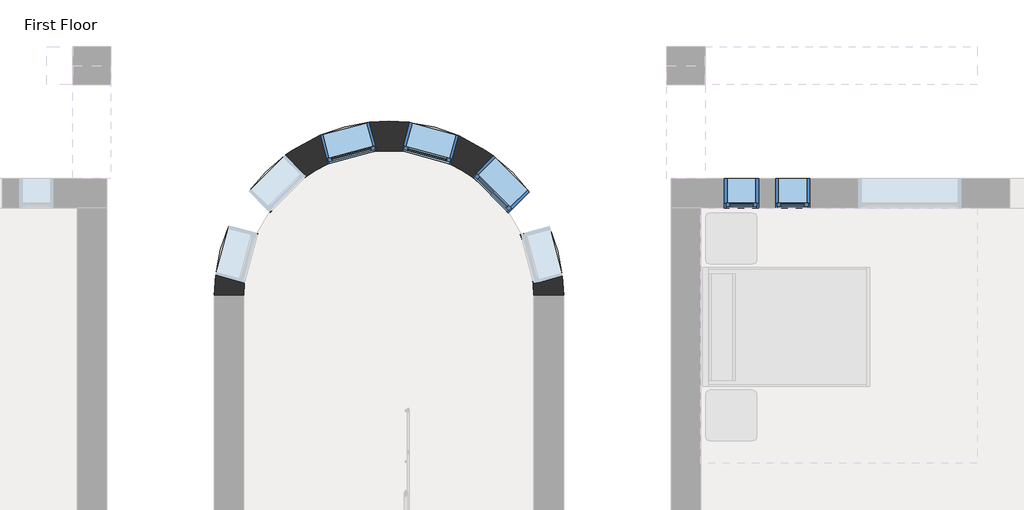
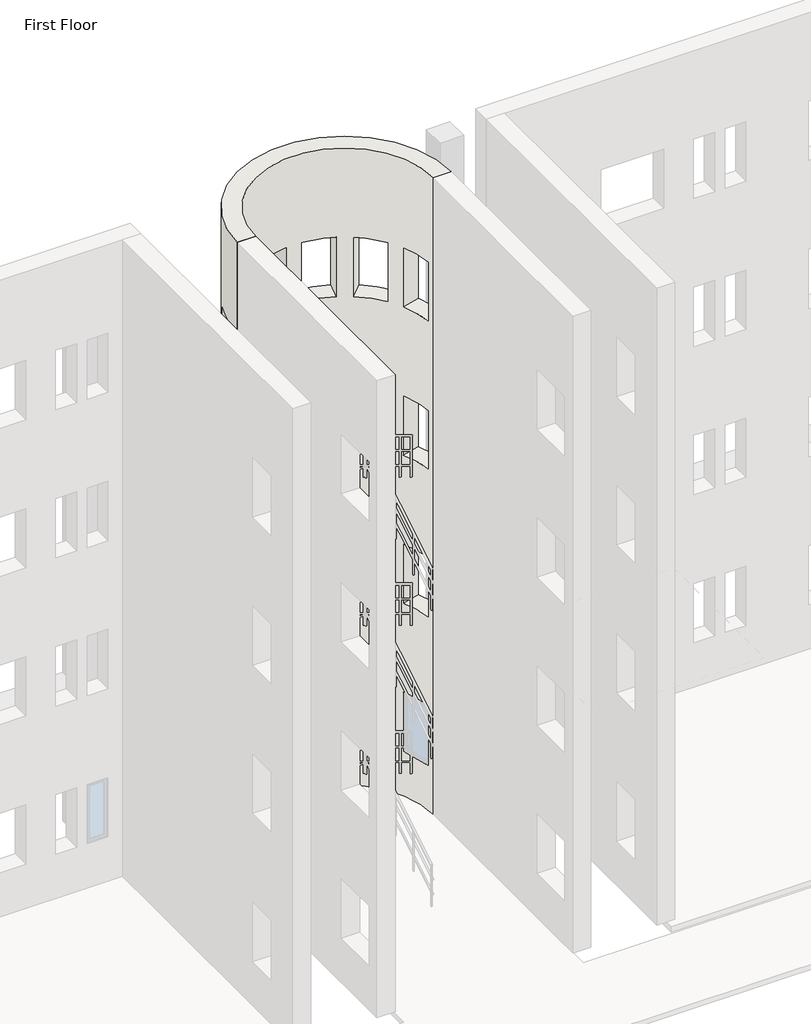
# One storey, part 17 of 24: 5 windows, 1 wall.
"""IFC4 building model written with IfcOpenShell, lengths in millimetres."""

from ifc_helpers import new_model, si_unit, frame, origin, place, context, project, spatial, polyline, circle_curve, transform, mapped, element, save
from ifc_brep_helpers import plane_surface, cylinder_surface, revolved_surface, advanced_brep
from components import window_da97879f, window_60baf983

model = new_model("IFC4")

# Units and contexts
model_context = context("Model", 3, world=origin())
ifc_project = project(units=[si_unit("LENGTHUNIT", "METRE", prefix="MILLI")], contexts=[model_context])

# Site, building, storey
site = spatial("IfcSite", under=ifc_project)
building = spatial("IfcBuilding", under=site)
storey = spatial("IfcBuildingStorey", under=building, Name="First Floor", Elevation=0.0)

# Wall
placement = place(None, origin())
element("IfcWall", 1, ObjectType="Exterior - Brick on Mtl. Stud", at=placement, inside=storey, context=model_context, shape_type="AdvancedBrep", body=[
    advanced_brep(
    [(-12853.9589563, 9227.0316867, 13106.4), (-17016.3839563, 9227.0316867, 13106.4), (-16663.9589563, 9227.0316867, 13106.4), (-13206.3839563, 9227.0316867, 13106.4), (-17016.3839563, 9227.0316867, 0.0), (-12853.9589563, 9227.0316867, 0.0), (-13206.3839563, 9227.0316867, 0.0), (-16663.9589563, 9227.0316867, 0.0), (-13022.9261748, 10048.4715527, 8229.6), (-13022.9261748, 10048.4715527, 7010.4), (-12866.9452701, 9459.1650812, 7010.4), (-12866.9452701, 9459.1650812, 8229.6), (-13689.8383973, 10894.5421191, 8229.6), (-13689.8383973, 10894.5421191, 7010.4), (-13260.1017356, 10462.1781965, 7010.4), (-13260.1017356, 10462.1781965, 8229.6), (-14690.4366072, 11293.8046118, 8229.6), (-14690.4366072, 11293.8046118, 7010.4), (-14102.0917799, 11134.234802, 7010.4), (-14102.0917799, 11134.234802, 8229.6), (-15756.6113224, 11139.2769682, 8229.6), (-15756.6113224, 11139.2769682, 7010.4), (-15167.3048508, 11295.2578729, 7010.4), (-15167.3048508, 11295.2578729, 8229.6), (-16602.6818887, 10472.3647457, 8229.6), (-16602.6818887, 10472.3647457, 7010.4), (-16170.3179661, 10902.1014074, 7010.4), (-16170.3179661, 10902.1014074, 8229.6), (-17001.9443814, 9471.7665358, 8229.6), (-17001.9443814, 9471.7665358, 7010.4), (-16842.3745716, 10060.1113631, 7010.4), (-16842.3745716, 10060.1113631, 8229.6), (-13022.9261748, 10048.4715527, 5181.6), (-13022.9261748, 10048.4715527, 3962.4), (-12866.9452701, 9459.1650812, 3962.4), (-12866.9452701, 9459.1650812, 5181.6), (-13689.8383973, 10894.5421191, 5181.6), (-13689.8383973, 10894.5421191, 3962.4), (-13260.1017356, 10462.1781965, 3962.4), (-13260.1017356, 10462.1781965, 5181.6), (-14690.4366072, 11293.8046118, 5181.6), (-14690.4366072, 11293.8046118, 3962.4), (-14102.0917799, 11134.234802, 3962.4), (-14102.0917799, 11134.234802, 5181.6), (-15756.6113224, 11139.2769682, 5181.6), (-15756.6113224, 11139.2769682, 3962.4), (-15167.3048508, 11295.2578729, 3962.4), (-15167.3048508, 11295.2578729, 5181.6), (-16602.6818887, 10472.3647457, 5181.6), (-16602.6818887, 10472.3647457, 3962.4), (-16170.3179661, 10902.1014074, 3962.4), (-16170.3179661, 10902.1014074, 5181.6), (-17001.9443814, 9471.7665358, 5181.6), (-17001.9443814, 9471.7665358, 3962.4), (-16842.3745716, 10060.1113631, 3962.4), (-16842.3745716, 10060.1113631, 5181.6), (-13022.9261748, 10048.4715527, 11277.6), (-13022.9261748, 10048.4715527, 10058.4), (-12866.9452701, 9459.1650812, 10058.4), (-12866.9452701, 9459.1650812, 11277.6), (-13689.8383973, 10894.5421191, 11277.6), (-13689.8383973, 10894.5421191, 10058.4), (-13260.1017356, 10462.1781965, 10058.4), (-13260.1017356, 10462.1781965, 11277.6), (-14690.4366072, 11293.8046118, 11277.6), (-14690.4366072, 11293.8046118, 10058.4), (-14102.0917799, 11134.234802, 10058.4), (-14102.0917799, 11134.234802, 11277.6), (-15756.6113224, 11139.2769682, 11277.6), (-15756.6113224, 11139.2769682, 10058.4), (-15167.3048508, 11295.2578729, 10058.4), (-15167.3048508, 11295.2578729, 11277.6), (-16602.6818887, 10472.3647457, 11277.6), (-16602.6818887, 10472.3647457, 10058.4), (-16170.3179661, 10902.1014074, 10058.4), (-16170.3179661, 10902.1014074, 11277.6), (-17001.9443814, 9471.7665358, 11277.6), (-17001.9443814, 9471.7665358, 10058.4), (-16842.3745716, 10060.1113631, 10058.4), (-16842.3745716, 10060.1113631, 11277.6), (-13022.9261748, 10048.4715527, 2133.6), (-13022.9261748, 10048.4715527, 914.4), (-12866.9452701, 9459.1650812, 914.4), (-12866.9452701, 9459.1650812, 2133.6), (-13689.8383973, 10894.5421191, 2133.6), (-13689.8383973, 10894.5421191, 914.4), (-13260.1017356, 10462.1781965, 914.4), (-13260.1017356, 10462.1781965, 2133.6), (-14690.4366072, 11293.8046118, 2133.6), (-14690.4366072, 11293.8046118, 914.4), (-14102.0917799, 11134.234802, 914.4), (-14102.0917799, 11134.234802, 2133.6), (-15756.6113224, 11139.2769682, 2133.6), (-15756.6113224, 11139.2769682, 914.4), (-15167.3048508, 11295.2578729, 914.4), (-15167.3048508, 11295.2578729, 2133.6), (-16602.6818887, 10472.3647457, 2133.6), (-16602.6818887, 10472.3647457, 914.4), (-16170.3179661, 10902.1014074, 914.4), (-16170.3179661, 10902.1014074, 2133.6), (-17001.9443814, 9471.7665358, 914.4), (-16842.3745716, 10060.1113631, 914.4), (-16842.3745716, 10060.1113631, 2133.6), (-17001.9443814, 9471.7665358, 2133.6), (-13368.1055834, 9957.1075528, 7010.4), (-13368.1055834, 9957.1075528, 8229.6), (-13212.1246787, 9367.8010813, 8229.6), (-13212.1246787, 9367.8010813, 7010.4), (-13943.090534, 10642.8288698, 7010.4), (-13943.090534, 10642.8288698, 8229.6), (-13513.3538723, 10210.4649472, 8229.6), (-13513.3538723, 10210.4649472, 7010.4), (-14783.9027666, 10949.188475, 7010.4), (-14783.9027666, 10949.188475, 8229.6), (-14195.5579393, 10789.6186653, 8229.6), (-14195.5579393, 10789.6186653, 7010.4), (-15665.2473224, 10794.0975596, 7010.4), (-15665.2473224, 10794.0975596, 8229.6), (-15075.9408509, 10950.0784643, 8229.6), (-15075.9408509, 10950.0784643, 7010.4), (-16350.9686395, 10219.112609, 7010.4), (-16350.9686395, 10219.112609, 8229.6), (-15918.6047169, 10648.8492707, 8229.6), (-15918.6047169, 10648.8492707, 7010.4), (-16657.3282447, 9378.3003764, 7010.4), (-16657.3282447, 9378.3003764, 8229.6), (-16497.7584349, 9966.6452037, 8229.6), (-16497.7584349, 9966.6452037, 7010.4), (-13368.1055834, 9957.1075528, 3962.4), (-13368.1055834, 9957.1075528, 5181.6), (-13212.1246787, 9367.8010813, 5181.6), (-13212.1246787, 9367.8010813, 3962.4), (-13943.090534, 10642.8288698, 3962.4), (-13943.090534, 10642.8288698, 5181.6), (-13513.3538723, 10210.4649472, 5181.6), (-13513.3538723, 10210.4649472, 3962.4), (-14783.9027666, 10949.188475, 3962.4), (-14783.9027666, 10949.188475, 5181.6), (-14195.5579393, 10789.6186653, 5181.6), (-14195.5579393, 10789.6186653, 3962.4), (-15665.2473224, 10794.0975596, 3962.4), (-15665.2473224, 10794.0975596, 5181.6), (-15075.9408509, 10950.0784643, 5181.6), (-15075.9408509, 10950.0784643, 3962.4), (-16350.9686395, 10219.112609, 3962.4), (-16350.9686395, 10219.112609, 5181.6), (-15918.6047169, 10648.8492707, 5181.6), (-15918.6047169, 10648.8492707, 3962.4), (-16657.3282447, 9378.3003764, 3962.4), (-16657.3282447, 9378.3003764, 5181.6), (-16497.7584349, 9966.6452037, 5181.6), (-16497.7584349, 9966.6452037, 3962.4), (-13368.1055834, 9957.1075528, 10058.4), (-13368.1055834, 9957.1075528, 11277.6), (-13212.1246787, 9367.8010813, 11277.6), (-13212.1246787, 9367.8010813, 10058.4), (-13943.090534, 10642.8288698, 10058.4), (-13943.090534, 10642.8288698, 11277.6), (-13513.3538723, 10210.4649472, 11277.6), (-13513.3538723, 10210.4649472, 10058.4), (-14783.9027666, 10949.188475, 10058.4), (-14783.9027666, 10949.188475, 11277.6), (-14195.5579393, 10789.6186653, 11277.6), (-14195.5579393, 10789.6186653, 10058.4), (-15665.2473224, 10794.0975596, 10058.4), (-15665.2473224, 10794.0975596, 11277.6), (-15075.9408509, 10950.0784643, 11277.6), (-15075.9408509, 10950.0784643, 10058.4), (-16350.9686395, 10219.112609, 10058.4), (-16350.9686395, 10219.112609, 11277.6), (-15918.6047169, 10648.8492707, 11277.6), (-15918.6047169, 10648.8492707, 10058.4), (-16657.3282447, 9378.3003764, 10058.4), (-16657.3282447, 9378.3003764, 11277.6), (-16497.7584349, 9966.6452037, 11277.6), (-16497.7584349, 9966.6452037, 10058.4), (-13368.1055834, 9957.1075528, 914.4), (-13368.1055834, 9957.1075528, 2133.6), (-13212.1246787, 9367.8010813, 2133.6), (-13212.1246787, 9367.8010813, 914.4), (-13943.090534, 10642.8288698, 914.4), (-13943.090534, 10642.8288698, 2133.6), (-13513.3538723, 10210.4649472, 2133.6), (-13513.3538723, 10210.4649472, 914.4), (-14783.9027666, 10949.188475, 914.4), (-14783.9027666, 10949.188475, 2133.6), (-14195.5579393, 10789.6186653, 2133.6), (-14195.5579393, 10789.6186653, 914.4), (-15665.2473224, 10794.0975596, 914.4), (-15665.2473224, 10794.0975596, 2133.6), (-15075.9408509, 10950.0784643, 2133.6), (-15075.9408509, 10950.0784643, 914.4), (-16350.9686395, 10219.112609, 914.4), (-16350.9686395, 10219.112609, 2133.6), (-15918.6047169, 10648.8492707, 2133.6), (-15918.6047169, 10648.8492707, 914.4), (-16497.7584349, 9966.6452037, 914.4), (-16657.3282447, 9378.3003764, 914.4), (-16657.3282447, 9378.3003764, 2133.6), (-16497.7584349, 9966.6452037, 2133.6)],
    [
        (0, 1, circle_curve(frame((-14935.1714563, 9227.0316867, 13106.4), z_axis=(0.0, 0.0, 1.0), x_axis=(1.0, 0.0, 0.0)), 2081.2125)),
        (1, 2),
        (2, 3, circle_curve(frame((-14935.1714563, 9227.0316867, 13106.4), z_axis=(0.0, 0.0, -1.0), x_axis=(1.0, 0.0, 0.0)), 1728.7875)),
        (3, 0),
        (4, 5, circle_curve(frame((-14935.1714563, 9227.0316867, 0.0), z_axis=(0.0, 0.0, -1.0), x_axis=(1.0, 0.0, 0.0)), 2081.2125)),
        (5, 6),
        (6, 7, circle_curve(frame((-14935.1714563, 9227.0316867, 0.0), z_axis=(0.0, 0.0, 1.0), x_axis=(1.0, 0.0, 0.0)), 1728.7875)),
        (7, 4),
        (0, 5),
        (4, 1),
        (8, 9),
        (9, 10, circle_curve(frame((-14935.1714563, 9227.0316867, 7010.4), z_axis=(0.0, 0.0, -1.0), x_axis=(1.0, 0.0, 0.0)), 2081.2125)),
        (10, 11),
        (11, 8, circle_curve(frame((-14935.1714563, 9227.0316867, 8229.6), z_axis=(0.0, 0.0, 1.0), x_axis=(1.0, 0.0, 0.0)), 2081.2125)),
        (12, 13),
        (13, 14, circle_curve(frame((-14935.1714563, 9227.0316867, 7010.4), z_axis=(0.0, 0.0, -1.0), x_axis=(1.0, 0.0, 0.0)), 2081.2125)),
        (14, 15),
        (15, 12, circle_curve(frame((-14935.1714563, 9227.0316867, 8229.6), z_axis=(0.0, 0.0, 1.0), x_axis=(1.0, 0.0, 0.0)), 2081.2125)),
        (16, 17),
        (17, 18, circle_curve(frame((-14935.1714563, 9227.0316867, 7010.4), z_axis=(0.0, 0.0, -1.0), x_axis=(1.0, 0.0, 0.0)), 2081.2125)),
        (18, 19),
        (19, 16, circle_curve(frame((-14935.1714563, 9227.0316867, 8229.6), z_axis=(0.0, 0.0, 1.0), x_axis=(1.0, 0.0, 0.0)), 2081.2125)),
        (20, 21),
        (21, 22, circle_curve(frame((-14935.1714563, 9227.0316867, 7010.4), z_axis=(0.0, 0.0, -1.0), x_axis=(1.0, 0.0, 0.0)), 2081.2125)),
        (22, 23),
        (23, 20, circle_curve(frame((-14935.1714563, 9227.0316867, 8229.6), z_axis=(0.0, 0.0, 1.0), x_axis=(1.0, 0.0, 0.0)), 2081.2125)),
        (24, 25),
        (25, 26, circle_curve(frame((-14935.1714563, 9227.0316867, 7010.4), z_axis=(0.0, 0.0, -1.0), x_axis=(1.0, 0.0, 0.0)), 2081.2125)),
        (26, 27),
        (27, 24, circle_curve(frame((-14935.1714563, 9227.0316867, 8229.6), z_axis=(0.0, 0.0, 1.0), x_axis=(1.0, 0.0, 0.0)), 2081.2125)),
        (28, 29),
        (29, 30, circle_curve(frame((-14935.1714563, 9227.0316867, 7010.4), z_axis=(0.0, 0.0, -1.0), x_axis=(1.0, 0.0, 0.0)), 2081.2125)),
        (30, 31),
        (31, 28, circle_curve(frame((-14935.1714563, 9227.0316867, 8229.6), z_axis=(0.0, 0.0, 1.0), x_axis=(1.0, 0.0, 0.0)), 2081.2125)),
        (32, 33),
        (33, 34, circle_curve(frame((-14935.1714563, 9227.0316867, 3962.4), z_axis=(0.0, 0.0, -1.0), x_axis=(1.0, 0.0, 0.0)), 2081.2125)),
        (34, 35),
        (35, 32, circle_curve(frame((-14935.1714563, 9227.0316867, 5181.6), z_axis=(0.0, 0.0, 1.0), x_axis=(1.0, 0.0, 0.0)), 2081.2125)),
        (36, 37),
        (37, 38, circle_curve(frame((-14935.1714563, 9227.0316867, 3962.4), z_axis=(0.0, 0.0, -1.0), x_axis=(1.0, 0.0, 0.0)), 2081.2125)),
        (38, 39),
        (39, 36, circle_curve(frame((-14935.1714563, 9227.0316867, 5181.6), z_axis=(0.0, 0.0, 1.0), x_axis=(1.0, 0.0, 0.0)), 2081.2125)),
        (40, 41),
        (41, 42, circle_curve(frame((-14935.1714563, 9227.0316867, 3962.4), z_axis=(0.0, 0.0, -1.0), x_axis=(1.0, 0.0, 0.0)), 2081.2125)),
        (42, 43),
        (43, 40, circle_curve(frame((-14935.1714563, 9227.0316867, 5181.6), z_axis=(0.0, 0.0, 1.0), x_axis=(1.0, 0.0, 0.0)), 2081.2125)),
        (44, 45),
        (45, 46, circle_curve(frame((-14935.1714563, 9227.0316867, 3962.4), z_axis=(0.0, 0.0, -1.0), x_axis=(1.0, 0.0, 0.0)), 2081.2125)),
        (46, 47),
        (47, 44, circle_curve(frame((-14935.1714563, 9227.0316867, 5181.6), z_axis=(0.0, 0.0, 1.0), x_axis=(1.0, 0.0, 0.0)), 2081.2125)),
        (48, 49),
        (49, 50, circle_curve(frame((-14935.1714563, 9227.0316867, 3962.4), z_axis=(0.0, 0.0, -1.0), x_axis=(1.0, 0.0, 0.0)), 2081.2125)),
        (50, 51),
        (51, 48, circle_curve(frame((-14935.1714563, 9227.0316867, 5181.6), z_axis=(0.0, 0.0, 1.0), x_axis=(1.0, 0.0, 0.0)), 2081.2125)),
        (52, 53),
        (53, 54, circle_curve(frame((-14935.1714563, 9227.0316867, 3962.4), z_axis=(0.0, 0.0, -1.0), x_axis=(1.0, 0.0, 0.0)), 2081.2125)),
        (54, 55),
        (55, 52, circle_curve(frame((-14935.1714563, 9227.0316867, 5181.6), z_axis=(0.0, 0.0, 1.0), x_axis=(1.0, 0.0, 0.0)), 2081.2125)),
        (56, 57),
        (57, 58, circle_curve(frame((-14935.1714563, 9227.0316867, 10058.4), z_axis=(0.0, 0.0, -1.0), x_axis=(1.0, 0.0, 0.0)), 2081.2125)),
        (58, 59),
        (59, 56, circle_curve(frame((-14935.1714563, 9227.0316867, 11277.6), z_axis=(0.0, 0.0, 1.0), x_axis=(1.0, 0.0, 0.0)), 2081.2125)),
        (60, 61),
        (61, 62, circle_curve(frame((-14935.1714563, 9227.0316867, 10058.4), z_axis=(0.0, 0.0, -1.0), x_axis=(1.0, 0.0, 0.0)), 2081.2125)),
        (62, 63),
        (63, 60, circle_curve(frame((-14935.1714563, 9227.0316867, 11277.6), z_axis=(0.0, 0.0, 1.0), x_axis=(1.0, 0.0, 0.0)), 2081.2125)),
        (64, 65),
        (65, 66, circle_curve(frame((-14935.1714563, 9227.0316867, 10058.4), z_axis=(0.0, 0.0, -1.0), x_axis=(1.0, 0.0, 0.0)), 2081.2125)),
        (66, 67),
        (67, 64, circle_curve(frame((-14935.1714563, 9227.0316867, 11277.6), z_axis=(0.0, 0.0, 1.0), x_axis=(1.0, 0.0, 0.0)), 2081.2125)),
        (68, 69),
        (69, 70, circle_curve(frame((-14935.1714563, 9227.0316867, 10058.4), z_axis=(0.0, 0.0, -1.0), x_axis=(1.0, 0.0, 0.0)), 2081.2125)),
        (70, 71),
        (71, 68, circle_curve(frame((-14935.1714563, 9227.0316867, 11277.6), z_axis=(0.0, 0.0, 1.0), x_axis=(1.0, 0.0, 0.0)), 2081.2125)),
        (72, 73),
        (73, 74, circle_curve(frame((-14935.1714563, 9227.0316867, 10058.4), z_axis=(0.0, 0.0, -1.0), x_axis=(1.0, 0.0, 0.0)), 2081.2125)),
        (74, 75),
        (75, 72, circle_curve(frame((-14935.1714563, 9227.0316867, 11277.6), z_axis=(0.0, 0.0, 1.0), x_axis=(1.0, 0.0, 0.0)), 2081.2125)),
        (76, 77),
        (77, 78, circle_curve(frame((-14935.1714563, 9227.0316867, 10058.4), z_axis=(0.0, 0.0, -1.0), x_axis=(1.0, 0.0, 0.0)), 2081.2125)),
        (78, 79),
        (79, 76, circle_curve(frame((-14935.1714563, 9227.0316867, 11277.6), z_axis=(0.0, 0.0, 1.0), x_axis=(1.0, 0.0, 0.0)), 2081.2125)),
        (80, 81),
        (81, 82, circle_curve(frame((-14935.1714563, 9227.0316867, 914.4), z_axis=(0.0, 0.0, -1.0), x_axis=(1.0, 0.0, 0.0)), 2081.2125)),
        (82, 83),
        (83, 80, circle_curve(frame((-14935.1714563, 9227.0316867, 2133.6), z_axis=(0.0, 0.0, 1.0), x_axis=(1.0, 0.0, 0.0)), 2081.2125)),
        (84, 85),
        (85, 86, circle_curve(frame((-14935.1714563, 9227.0316867, 914.4), z_axis=(0.0, 0.0, -1.0), x_axis=(1.0, 0.0, 0.0)), 2081.2125)),
        (86, 87),
        (87, 84, circle_curve(frame((-14935.1714563, 9227.0316867, 2133.6), z_axis=(0.0, 0.0, 1.0), x_axis=(1.0, 0.0, 0.0)), 2081.2125)),
        (88, 89),
        (89, 90, circle_curve(frame((-14935.1714563, 9227.0316867, 914.4), z_axis=(0.0, 0.0, -1.0), x_axis=(1.0, 0.0, 0.0)), 2081.2125)),
        (90, 91),
        (91, 88, circle_curve(frame((-14935.1714563, 9227.0316867, 2133.6), z_axis=(0.0, 0.0, 1.0), x_axis=(1.0, 0.0, 0.0)), 2081.2125)),
        (92, 93),
        (93, 94, circle_curve(frame((-14935.1714563, 9227.0316867, 914.4), z_axis=(0.0, 0.0, -1.0), x_axis=(1.0, 0.0, 0.0)), 2081.2125)),
        (94, 95),
        (95, 92, circle_curve(frame((-14935.1714563, 9227.0316867, 2133.6), z_axis=(0.0, 0.0, 1.0), x_axis=(1.0, 0.0, 0.0)), 2081.2125)),
        (96, 97),
        (97, 98, circle_curve(frame((-14935.1714563, 9227.0316867, 914.4), z_axis=(0.0, 0.0, -1.0), x_axis=(1.0, 0.0, 0.0)), 2081.2125)),
        (98, 99),
        (99, 96, circle_curve(frame((-14935.1714563, 9227.0316867, 2133.6), z_axis=(0.0, 0.0, 1.0), x_axis=(1.0, 0.0, 0.0)), 2081.2125)),
        (100, 101, circle_curve(frame((-14935.1714563, 9227.0316867, 914.4), z_axis=(0.0, 0.0, -1.0), x_axis=(1.0, 0.0, 0.0)), 2081.2125)),
        (101, 102),
        (102, 103, circle_curve(frame((-14935.1714563, 9227.0316867, 2133.6), z_axis=(0.0, 0.0, 1.0), x_axis=(1.0, 0.0, 0.0)), 2081.2125)),
        (103, 100),
        (7, 2),
        (6, 3),
        (104, 105),
        (105, 106, circle_curve(frame((-14935.1714563, 9227.0316867, 8229.6), z_axis=(0.0, 0.0, -1.0), x_axis=(1.0, 0.0, 0.0)), 1728.7875)),
        (106, 107),
        (107, 104, circle_curve(frame((-14935.1714563, 9227.0316867, 7010.4), z_axis=(0.0, 0.0, 1.0), x_axis=(1.0, 0.0, 0.0)), 1728.7875)),
        (108, 109),
        (109, 110, circle_curve(frame((-14935.1714563, 9227.0316867, 8229.6), z_axis=(0.0, 0.0, -1.0), x_axis=(1.0, 0.0, 0.0)), 1728.7875)),
        (110, 111),
        (111, 108, circle_curve(frame((-14935.1714563, 9227.0316867, 7010.4), z_axis=(0.0, 0.0, 1.0), x_axis=(1.0, 0.0, 0.0)), 1728.7875)),
        (112, 113),
        (113, 114, circle_curve(frame((-14935.1714563, 9227.0316867, 8229.6), z_axis=(0.0, 0.0, -1.0), x_axis=(1.0, 0.0, 0.0)), 1728.7875)),
        (114, 115),
        (115, 112, circle_curve(frame((-14935.1714563, 9227.0316867, 7010.4), z_axis=(0.0, 0.0, 1.0), x_axis=(1.0, 0.0, 0.0)), 1728.7875)),
        (116, 117),
        (117, 118, circle_curve(frame((-14935.1714563, 9227.0316867, 8229.6), z_axis=(0.0, 0.0, -1.0), x_axis=(1.0, 0.0, 0.0)), 1728.7875)),
        (118, 119),
        (119, 116, circle_curve(frame((-14935.1714563, 9227.0316867, 7010.4), z_axis=(0.0, 0.0, 1.0), x_axis=(1.0, 0.0, 0.0)), 1728.7875)),
        (120, 121),
        (121, 122, circle_curve(frame((-14935.1714563, 9227.0316867, 8229.6), z_axis=(0.0, 0.0, -1.0), x_axis=(1.0, 0.0, 0.0)), 1728.7875)),
        (122, 123),
        (123, 120, circle_curve(frame((-14935.1714563, 9227.0316867, 7010.4), z_axis=(0.0, 0.0, 1.0), x_axis=(1.0, 0.0, 0.0)), 1728.7875)),
        (124, 125),
        (125, 126, circle_curve(frame((-14935.1714563, 9227.0316867, 8229.6), z_axis=(0.0, 0.0, -1.0), x_axis=(1.0, 0.0, 0.0)), 1728.7875)),
        (126, 127),
        (127, 124, circle_curve(frame((-14935.1714563, 9227.0316867, 7010.4), z_axis=(0.0, 0.0, 1.0), x_axis=(1.0, 0.0, 0.0)), 1728.7875)),
        (128, 129),
        (129, 130, circle_curve(frame((-14935.1714563, 9227.0316867, 5181.6), z_axis=(0.0, 0.0, -1.0), x_axis=(1.0, 0.0, 0.0)), 1728.7875)),
        (130, 131),
        (131, 128, circle_curve(frame((-14935.1714563, 9227.0316867, 3962.4), z_axis=(0.0, 0.0, 1.0), x_axis=(1.0, 0.0, 0.0)), 1728.7875)),
        (132, 133),
        (133, 134, circle_curve(frame((-14935.1714563, 9227.0316867, 5181.6), z_axis=(0.0, 0.0, -1.0), x_axis=(1.0, 0.0, 0.0)), 1728.7875)),
        (134, 135),
        (135, 132, circle_curve(frame((-14935.1714563, 9227.0316867, 3962.4), z_axis=(0.0, 0.0, 1.0), x_axis=(1.0, 0.0, 0.0)), 1728.7875)),
        (136, 137),
        (137, 138, circle_curve(frame((-14935.1714563, 9227.0316867, 5181.6), z_axis=(0.0, 0.0, -1.0), x_axis=(1.0, 0.0, 0.0)), 1728.7875)),
        (138, 139),
        (139, 136, circle_curve(frame((-14935.1714563, 9227.0316867, 3962.4), z_axis=(0.0, 0.0, 1.0), x_axis=(1.0, 0.0, 0.0)), 1728.7875)),
        (140, 141),
        (141, 142, circle_curve(frame((-14935.1714563, 9227.0316867, 5181.6), z_axis=(0.0, 0.0, -1.0), x_axis=(1.0, 0.0, 0.0)), 1728.7875)),
        (142, 143),
        (143, 140, circle_curve(frame((-14935.1714563, 9227.0316867, 3962.4), z_axis=(0.0, 0.0, 1.0), x_axis=(1.0, 0.0, 0.0)), 1728.7875)),
        (144, 145),
        (145, 146, circle_curve(frame((-14935.1714563, 9227.0316867, 5181.6), z_axis=(0.0, 0.0, -1.0), x_axis=(1.0, 0.0, 0.0)), 1728.7875)),
        (146, 147),
        (147, 144, circle_curve(frame((-14935.1714563, 9227.0316867, 3962.4), z_axis=(0.0, 0.0, 1.0), x_axis=(1.0, 0.0, 0.0)), 1728.7875)),
        (148, 149),
        (149, 150, circle_curve(frame((-14935.1714563, 9227.0316867, 5181.6), z_axis=(0.0, 0.0, -1.0), x_axis=(1.0, 0.0, 0.0)), 1728.7875)),
        (150, 151),
        (151, 148, circle_curve(frame((-14935.1714563, 9227.0316867, 3962.4), z_axis=(0.0, 0.0, 1.0), x_axis=(1.0, 0.0, 0.0)), 1728.7875)),
        (152, 153),
        (153, 154, circle_curve(frame((-14935.1714563, 9227.0316867, 11277.6), z_axis=(0.0, 0.0, -1.0), x_axis=(1.0, 0.0, 0.0)), 1728.7875)),
        (154, 155),
        (155, 152, circle_curve(frame((-14935.1714563, 9227.0316867, 10058.4), z_axis=(0.0, 0.0, 1.0), x_axis=(1.0, 0.0, 0.0)), 1728.7875)),
        (156, 157),
        (157, 158, circle_curve(frame((-14935.1714563, 9227.0316867, 11277.6), z_axis=(0.0, 0.0, -1.0), x_axis=(1.0, 0.0, 0.0)), 1728.7875)),
        (158, 159),
        (159, 156, circle_curve(frame((-14935.1714563, 9227.0316867, 10058.4), z_axis=(0.0, 0.0, 1.0), x_axis=(1.0, 0.0, 0.0)), 1728.7875)),
        (160, 161),
        (161, 162, circle_curve(frame((-14935.1714563, 9227.0316867, 11277.6), z_axis=(0.0, 0.0, -1.0), x_axis=(1.0, 0.0, 0.0)), 1728.7875)),
        (162, 163),
        (163, 160, circle_curve(frame((-14935.1714563, 9227.0316867, 10058.4), z_axis=(0.0, 0.0, 1.0), x_axis=(1.0, 0.0, 0.0)), 1728.7875)),
        (164, 165),
        (165, 166, circle_curve(frame((-14935.1714563, 9227.0316867, 11277.6), z_axis=(0.0, 0.0, -1.0), x_axis=(1.0, 0.0, 0.0)), 1728.7875)),
        (166, 167),
        (167, 164, circle_curve(frame((-14935.1714563, 9227.0316867, 10058.4), z_axis=(0.0, 0.0, 1.0), x_axis=(1.0, 0.0, 0.0)), 1728.7875)),
        (168, 169),
        (169, 170, circle_curve(frame((-14935.1714563, 9227.0316867, 11277.6), z_axis=(0.0, 0.0, -1.0), x_axis=(1.0, 0.0, 0.0)), 1728.7875)),
        (170, 171),
        (171, 168, circle_curve(frame((-14935.1714563, 9227.0316867, 10058.4), z_axis=(0.0, 0.0, 1.0), x_axis=(1.0, 0.0, 0.0)), 1728.7875)),
        (172, 173),
        (173, 174, circle_curve(frame((-14935.1714563, 9227.0316867, 11277.6), z_axis=(0.0, 0.0, -1.0), x_axis=(1.0, 0.0, 0.0)), 1728.7875)),
        (174, 175),
        (175, 172, circle_curve(frame((-14935.1714563, 9227.0316867, 10058.4), z_axis=(0.0, 0.0, 1.0), x_axis=(1.0, 0.0, 0.0)), 1728.7875)),
        (176, 177),
        (177, 178, circle_curve(frame((-14935.1714563, 9227.0316867, 2133.6), z_axis=(0.0, 0.0, -1.0), x_axis=(1.0, 0.0, 0.0)), 1728.7875)),
        (178, 179),
        (179, 176, circle_curve(frame((-14935.1714563, 9227.0316867, 914.4), z_axis=(0.0, 0.0, 1.0), x_axis=(1.0, 0.0, 0.0)), 1728.7875)),
        (180, 181),
        (181, 182, circle_curve(frame((-14935.1714563, 9227.0316867, 2133.6), z_axis=(0.0, 0.0, -1.0), x_axis=(1.0, 0.0, 0.0)), 1728.7875)),
        (182, 183),
        (183, 180, circle_curve(frame((-14935.1714563, 9227.0316867, 914.4), z_axis=(0.0, 0.0, 1.0), x_axis=(1.0, 0.0, 0.0)), 1728.7875)),
        (184, 185),
        (185, 186, circle_curve(frame((-14935.1714563, 9227.0316867, 2133.6), z_axis=(0.0, 0.0, -1.0), x_axis=(1.0, 0.0, 0.0)), 1728.7875)),
        (186, 187),
        (187, 184, circle_curve(frame((-14935.1714563, 9227.0316867, 914.4), z_axis=(0.0, 0.0, 1.0), x_axis=(1.0, 0.0, 0.0)), 1728.7875)),
        (188, 189),
        (189, 190, circle_curve(frame((-14935.1714563, 9227.0316867, 2133.6), z_axis=(0.0, 0.0, -1.0), x_axis=(1.0, 0.0, 0.0)), 1728.7875)),
        (190, 191),
        (191, 188, circle_curve(frame((-14935.1714563, 9227.0316867, 914.4), z_axis=(0.0, 0.0, 1.0), x_axis=(1.0, 0.0, 0.0)), 1728.7875)),
        (192, 193),
        (193, 194, circle_curve(frame((-14935.1714563, 9227.0316867, 2133.6), z_axis=(0.0, 0.0, -1.0), x_axis=(1.0, 0.0, 0.0)), 1728.7875)),
        (194, 195),
        (195, 192, circle_curve(frame((-14935.1714563, 9227.0316867, 914.4), z_axis=(0.0, 0.0, 1.0), x_axis=(1.0, 0.0, 0.0)), 1728.7875)),
        (196, 197, circle_curve(frame((-14935.1714563, 9227.0316867, 914.4), z_axis=(0.0, 0.0, 1.0), x_axis=(1.0, 0.0, 0.0)), 1728.7875)),
        (197, 198),
        (198, 199, circle_curve(frame((-14935.1714563, 9227.0316867, 2133.6), z_axis=(0.0, 0.0, -1.0), x_axis=(1.0, 0.0, 0.0)), 1728.7875)),
        (199, 196),
        (8, 105),
        (104, 9),
        (107, 10),
        (106, 11),
        (12, 109),
        (108, 13),
        (111, 14),
        (110, 15),
        (16, 113),
        (112, 17),
        (115, 18),
        (114, 19),
        (20, 117),
        (116, 21),
        (119, 22),
        (118, 23),
        (24, 121),
        (120, 25),
        (123, 26),
        (122, 27),
        (28, 125),
        (124, 29),
        (127, 30),
        (126, 31),
        (32, 129),
        (128, 33),
        (131, 34),
        (130, 35),
        (36, 133),
        (132, 37),
        (135, 38),
        (134, 39),
        (40, 137),
        (136, 41),
        (139, 42),
        (138, 43),
        (44, 141),
        (140, 45),
        (143, 46),
        (142, 47),
        (48, 145),
        (144, 49),
        (147, 50),
        (146, 51),
        (52, 149),
        (148, 53),
        (151, 54),
        (150, 55),
        (56, 153),
        (152, 57),
        (155, 58),
        (154, 59),
        (60, 157),
        (156, 61),
        (159, 62),
        (158, 63),
        (64, 161),
        (160, 65),
        (163, 66),
        (162, 67),
        (68, 165),
        (164, 69),
        (167, 70),
        (166, 71),
        (72, 169),
        (168, 73),
        (171, 74),
        (170, 75),
        (76, 173),
        (172, 77),
        (175, 78),
        (174, 79),
        (80, 177),
        (176, 81),
        (179, 82),
        (178, 83),
        (84, 181),
        (180, 85),
        (183, 86),
        (182, 87),
        (88, 185),
        (184, 89),
        (187, 90),
        (186, 91),
        (92, 189),
        (188, 93),
        (191, 94),
        (190, 95),
        (96, 193),
        (192, 97),
        (195, 98),
        (194, 99),
        (197, 100),
        (103, 198),
        (196, 101),
        (199, 102),
    ],
    [
        plane_surface(frame((-12853.9589563, 9227.0316867, 13106.4), z_axis=(0.0, 0.0, 1.0), x_axis=(0.0, 1.0, 0.0))),
        plane_surface(frame((-12853.9589563, 9227.0316867, 0.0), z_axis=(0.0, 0.0, -1.0), x_axis=(0.0, -1.0, 0.0))),
        cylinder_surface(frame((-14935.1714563, 9227.0316867, 0.0), z_axis=(0.0, 0.0, 1.0), x_axis=(1.0, 0.0, 0.0)), 2081.2125),
        plane_surface(frame((-17016.3839563, 9227.0316867, 13106.4), z_axis=(0.0, -1.0, 0.0), x_axis=(0.0, 0.0, -1.0))),
        revolved_surface(polyline([(-13206.3839563, 9227.0316867, 0.0), (-13206.3839563, 9227.0316867, 13106.4)]), (-14935.1714563, 9227.0316867, 0.0), (0.0, 0.0, -1.0)),
        plane_surface(frame((-13206.3839563, 9227.0316867, 13106.4), z_axis=(0.0, -1.0, 0.0), x_axis=(0.0, 0.0, -1.0))),
        plane_surface(frame((-13022.9261748, 10048.4715527, 8229.6), z_axis=(0.25587418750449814, -0.9667100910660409, 0.0), x_axis=(-0.9667100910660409, -0.25587418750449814, 0.0))),
        plane_surface(frame((-13022.9261748, 10048.4715527, 7010.4), z_axis=(0.0, 0.0, 1.0), x_axis=(-0.9667100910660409, -0.25587418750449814, 0.0))),
        plane_surface(frame((-12866.9452701, 9459.1650812, 7010.4), z_axis=(-0.2558741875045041, 0.9667100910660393, 0.0), x_axis=(-0.9667100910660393, -0.2558741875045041, 0.0))),
        plane_surface(frame((-12866.9452701, 9459.1650812, 8229.6), z_axis=(0.0, 0.0, -1.0000000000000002), x_axis=(-0.9667100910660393, -0.2558741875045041, 0.0))),
        plane_surface(frame((-13689.8383973, 10894.5421191, 8229.6), z_axis=(0.7049485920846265, -0.7092584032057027, 0.0), x_axis=(-0.7092584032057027, -0.7049485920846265, 0.0))),
        plane_surface(frame((-13689.8383973, 10894.5421191, 7010.4), z_axis=(0.0, 0.0, 1.0), x_axis=(-0.7092584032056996, -0.7049485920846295, 0.0))),
        plane_surface(frame((-13260.1017356, 10462.1781965, 7010.4), z_axis=(-0.7049485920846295, 0.7092584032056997, 0.0), x_axis=(-0.7092584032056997, -0.7049485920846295, 0.0))),
        plane_surface(frame((-13260.1017356, 10462.1781965, 8229.6), z_axis=(0.0, 0.0, -1.0000000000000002), x_axis=(-0.7092584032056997, -0.7049485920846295, 0.0))),
        plane_surface(frame((-14690.4366072, 11293.8046118, 8229.6), z_axis=(0.9651325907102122, -0.2617614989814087, 0.0), x_axis=(-0.2617614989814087, -0.9651325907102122, 0.0))),
        plane_surface(frame((-14690.4366072, 11293.8046118, 7010.4), z_axis=(0.0, 0.0, 1.0), x_axis=(-0.2617614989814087, -0.9651325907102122, 0.0))),
        plane_surface(frame((-14102.0917799, 11134.234802, 7010.4), z_axis=(-0.965132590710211, 0.2617614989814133, 0.0), x_axis=(-0.2617614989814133, -0.965132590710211, 0.0))),
        plane_surface(frame((-14102.0917799, 11134.234802, 8229.6), z_axis=(0.0, 0.0, -1.0), x_axis=(-0.2617614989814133, -0.965132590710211, 0.0))),
        plane_surface(frame((-15756.6113224, 11139.2769682, 8229.6), z_axis=(0.9667100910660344, 0.25587418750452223, 0.0), x_axis=(0.25587418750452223, -0.9667100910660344, 0.0))),
        plane_surface(frame((-15756.6113224, 11139.2769682, 7010.4), z_axis=(0.0, 0.0, 1.0), x_axis=(0.25587418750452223, -0.9667100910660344, 0.0))),
        plane_surface(frame((-15167.3048508, 11295.2578729, 7010.4), z_axis=(-0.9667100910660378, -0.2558741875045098, 0.0), x_axis=(0.2558741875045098, -0.9667100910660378, 0.0))),
        plane_surface(frame((-15167.3048508, 11295.2578729, 8229.6), z_axis=(0.0, 0.0, -1.0), x_axis=(0.2558741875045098, -0.9667100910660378, 0.0))),
        plane_surface(frame((-16602.6818887, 10472.3647457, 8229.6), z_axis=(0.7092584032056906, 0.7049485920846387, 0.0), x_axis=(0.7049485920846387, -0.7092584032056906, 0.0))),
        plane_surface(frame((-16602.6818887, 10472.3647457, 7010.4), z_axis=(0.0, 0.0, 1.0000000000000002), x_axis=(0.7049485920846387, -0.7092584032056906, 0.0))),
        plane_surface(frame((-16170.3179661, 10902.1014074, 7010.4), z_axis=(-0.7092584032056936, -0.7049485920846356, 0.0), x_axis=(0.7049485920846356, -0.7092584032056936, 0.0))),
        plane_surface(frame((-16170.3179661, 10902.1014074, 8229.6), z_axis=(0.0, 0.0, -1.0), x_axis=(0.7049485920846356, -0.7092584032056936, 0.0))),
        plane_surface(frame((-17001.9443814, 9471.7665358, 8229.6), z_axis=(0.26176149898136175, 0.965132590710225, 0.0), x_axis=(0.965132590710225, -0.26176149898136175, 0.0))),
        plane_surface(frame((-17001.9443814, 9471.7665358, 7010.4), z_axis=(0.0, 0.0, 1.0), x_axis=(0.965132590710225, -0.26176149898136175, 0.0))),
        plane_surface(frame((-16842.3745716, 10060.1113631, 7010.4), z_axis=(-0.261761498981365, -0.9651325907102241, 0.0), x_axis=(0.9651325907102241, -0.261761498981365, 0.0))),
        plane_surface(frame((-16842.3745716, 10060.1113631, 8229.6), z_axis=(0.0, 0.0, -1.0), x_axis=(0.9651325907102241, -0.261761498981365, 0.0))),
        plane_surface(frame((-13022.9261748, 10048.4715527, 5181.6), z_axis=(0.25587418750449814, -0.9667100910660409, 0.0), x_axis=(-0.9667100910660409, -0.25587418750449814, 0.0))),
        plane_surface(frame((-13022.9261748, 10048.4715527, 3962.4), z_axis=(0.0, 0.0, 1.0), x_axis=(-0.9667100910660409, -0.25587418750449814, 0.0))),
        plane_surface(frame((-12866.9452701, 9459.1650812, 3962.4), z_axis=(-0.2558741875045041, 0.9667100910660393, 0.0), x_axis=(-0.9667100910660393, -0.2558741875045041, 0.0))),
        plane_surface(frame((-12866.9452701, 9459.1650812, 5181.6), z_axis=(0.0, 0.0, -1.0000000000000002), x_axis=(-0.9667100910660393, -0.2558741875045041, 0.0))),
        plane_surface(frame((-13689.8383973, 10894.5421191, 5181.6), z_axis=(0.7049485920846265, -0.7092584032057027, 0.0), x_axis=(-0.7092584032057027, -0.7049485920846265, 0.0))),
        plane_surface(frame((-13689.8383973, 10894.5421191, 3962.4), z_axis=(0.0, 0.0, 1.0), x_axis=(-0.7092584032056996, -0.7049485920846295, 0.0))),
        plane_surface(frame((-13260.1017356, 10462.1781965, 3962.4), z_axis=(-0.7049485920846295, 0.7092584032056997, 0.0), x_axis=(-0.7092584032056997, -0.7049485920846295, 0.0))),
        plane_surface(frame((-13260.1017356, 10462.1781965, 5181.6), z_axis=(0.0, 0.0, -1.0000000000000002), x_axis=(-0.7092584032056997, -0.7049485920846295, 0.0))),
        plane_surface(frame((-14690.4366072, 11293.8046118, 5181.6), z_axis=(0.9651325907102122, -0.2617614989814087, 0.0), x_axis=(-0.2617614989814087, -0.9651325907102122, 0.0))),
        plane_surface(frame((-14690.4366072, 11293.8046118, 3962.4), z_axis=(0.0, 0.0, 1.0), x_axis=(-0.2617614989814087, -0.9651325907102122, 0.0))),
        plane_surface(frame((-14102.0917799, 11134.234802, 3962.4), z_axis=(-0.965132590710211, 0.2617614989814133, 0.0), x_axis=(-0.2617614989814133, -0.965132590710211, 0.0))),
        plane_surface(frame((-14102.0917799, 11134.234802, 5181.6), z_axis=(0.0, 0.0, -1.0), x_axis=(-0.2617614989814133, -0.965132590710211, 0.0))),
        plane_surface(frame((-15756.6113224, 11139.2769682, 5181.6), z_axis=(0.9667100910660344, 0.25587418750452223, 0.0), x_axis=(0.25587418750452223, -0.9667100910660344, 0.0))),
        plane_surface(frame((-15756.6113224, 11139.2769682, 3962.4), z_axis=(0.0, 0.0, 1.0), x_axis=(0.25587418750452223, -0.9667100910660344, 0.0))),
        plane_surface(frame((-15167.3048508, 11295.2578729, 3962.4), z_axis=(-0.9667100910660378, -0.2558741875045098, 0.0), x_axis=(0.2558741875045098, -0.9667100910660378, 0.0))),
        plane_surface(frame((-15167.3048508, 11295.2578729, 5181.6), z_axis=(0.0, 0.0, -1.0), x_axis=(0.2558741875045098, -0.9667100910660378, 0.0))),
        plane_surface(frame((-16602.6818887, 10472.3647457, 5181.6), z_axis=(0.7092584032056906, 0.7049485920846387, 0.0), x_axis=(0.7049485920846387, -0.7092584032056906, 0.0))),
        plane_surface(frame((-16602.6818887, 10472.3647457, 3962.4), z_axis=(0.0, 0.0, 1.0000000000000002), x_axis=(0.7049485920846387, -0.7092584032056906, 0.0))),
        plane_surface(frame((-16170.3179661, 10902.1014074, 3962.4), z_axis=(-0.7092584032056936, -0.7049485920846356, 0.0), x_axis=(0.7049485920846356, -0.7092584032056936, 0.0))),
        plane_surface(frame((-16170.3179661, 10902.1014074, 5181.6), z_axis=(0.0, 0.0, -1.0), x_axis=(0.7049485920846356, -0.7092584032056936, 0.0))),
        plane_surface(frame((-17001.9443814, 9471.7665358, 5181.6), z_axis=(0.26176149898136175, 0.965132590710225, 0.0), x_axis=(0.965132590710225, -0.26176149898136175, 0.0))),
        plane_surface(frame((-17001.9443814, 9471.7665358, 3962.4), z_axis=(0.0, 0.0, 1.0), x_axis=(0.965132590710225, -0.26176149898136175, 0.0))),
        plane_surface(frame((-16842.3745716, 10060.1113631, 3962.4), z_axis=(-0.261761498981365, -0.9651325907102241, 0.0), x_axis=(0.9651325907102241, -0.261761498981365, 0.0))),
        plane_surface(frame((-16842.3745716, 10060.1113631, 5181.6), z_axis=(0.0, 0.0, -1.0), x_axis=(0.9651325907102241, -0.261761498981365, 0.0))),
        plane_surface(frame((-13022.9261748, 10048.4715527, 11277.6), z_axis=(0.25587418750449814, -0.9667100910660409, 0.0), x_axis=(-0.9667100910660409, -0.25587418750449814, 0.0))),
        plane_surface(frame((-13022.9261748, 10048.4715527, 10058.4), z_axis=(0.0, 0.0, 1.0), x_axis=(-0.9667100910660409, -0.25587418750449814, 0.0))),
        plane_surface(frame((-12866.9452701, 9459.1650812, 10058.4), z_axis=(-0.2558741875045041, 0.9667100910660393, 0.0), x_axis=(-0.9667100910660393, -0.2558741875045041, 0.0))),
        plane_surface(frame((-12866.9452701, 9459.1650812, 11277.6), z_axis=(0.0, 0.0, -1.0000000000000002), x_axis=(-0.9667100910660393, -0.2558741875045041, 0.0))),
        plane_surface(frame((-13689.8383973, 10894.5421191, 11277.6), z_axis=(0.7049485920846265, -0.7092584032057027, 0.0), x_axis=(-0.7092584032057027, -0.7049485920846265, 0.0))),
        plane_surface(frame((-13689.8383973, 10894.5421191, 10058.4), z_axis=(0.0, 0.0, 1.0), x_axis=(-0.7092584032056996, -0.7049485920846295, 0.0))),
        plane_surface(frame((-13260.1017356, 10462.1781965, 10058.4), z_axis=(-0.7049485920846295, 0.7092584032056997, 0.0), x_axis=(-0.7092584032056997, -0.7049485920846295, 0.0))),
        plane_surface(frame((-13260.1017356, 10462.1781965, 11277.6), z_axis=(0.0, 0.0, -1.0000000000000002), x_axis=(-0.7092584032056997, -0.7049485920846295, 0.0))),
        plane_surface(frame((-14690.4366072, 11293.8046118, 11277.6), z_axis=(0.9651325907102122, -0.2617614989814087, 0.0), x_axis=(-0.2617614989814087, -0.9651325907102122, 0.0))),
        plane_surface(frame((-14690.4366072, 11293.8046118, 10058.4), z_axis=(0.0, 0.0, 1.0), x_axis=(-0.2617614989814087, -0.9651325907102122, 0.0))),
        plane_surface(frame((-14102.0917799, 11134.234802, 10058.4), z_axis=(-0.965132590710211, 0.2617614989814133, 0.0), x_axis=(-0.2617614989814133, -0.965132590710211, 0.0))),
        plane_surface(frame((-14102.0917799, 11134.234802, 11277.6), z_axis=(0.0, 0.0, -1.0), x_axis=(-0.2617614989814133, -0.965132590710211, 0.0))),
        plane_surface(frame((-15756.6113224, 11139.2769682, 11277.6), z_axis=(0.9667100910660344, 0.25587418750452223, 0.0), x_axis=(0.25587418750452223, -0.9667100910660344, 0.0))),
        plane_surface(frame((-15756.6113224, 11139.2769682, 10058.4), z_axis=(0.0, 0.0, 1.0), x_axis=(0.25587418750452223, -0.9667100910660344, 0.0))),
        plane_surface(frame((-15167.3048508, 11295.2578729, 10058.4), z_axis=(-0.9667100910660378, -0.2558741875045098, 0.0), x_axis=(0.2558741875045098, -0.9667100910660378, 0.0))),
        plane_surface(frame((-15167.3048508, 11295.2578729, 11277.6), z_axis=(0.0, 0.0, -1.0), x_axis=(0.2558741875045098, -0.9667100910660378, 0.0))),
        plane_surface(frame((-16602.6818887, 10472.3647457, 11277.6), z_axis=(0.7092584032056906, 0.7049485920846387, 0.0), x_axis=(0.7049485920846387, -0.7092584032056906, 0.0))),
        plane_surface(frame((-16602.6818887, 10472.3647457, 10058.4), z_axis=(0.0, 0.0, 1.0000000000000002), x_axis=(0.7049485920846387, -0.7092584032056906, 0.0))),
        plane_surface(frame((-16170.3179661, 10902.1014074, 10058.4), z_axis=(-0.7092584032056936, -0.7049485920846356, 0.0), x_axis=(0.7049485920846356, -0.7092584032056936, 0.0))),
        plane_surface(frame((-16170.3179661, 10902.1014074, 11277.6), z_axis=(0.0, 0.0, -1.0), x_axis=(0.7049485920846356, -0.7092584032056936, 0.0))),
        plane_surface(frame((-17001.9443814, 9471.7665358, 11277.6), z_axis=(0.26176149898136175, 0.965132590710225, 0.0), x_axis=(0.965132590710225, -0.26176149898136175, 0.0))),
        plane_surface(frame((-17001.9443814, 9471.7665358, 10058.4), z_axis=(0.0, 0.0, 1.0), x_axis=(0.965132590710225, -0.26176149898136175, 0.0))),
        plane_surface(frame((-16842.3745716, 10060.1113631, 10058.4), z_axis=(-0.261761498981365, -0.9651325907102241, 0.0), x_axis=(0.9651325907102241, -0.261761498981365, 0.0))),
        plane_surface(frame((-16842.3745716, 10060.1113631, 11277.6), z_axis=(0.0, 0.0, -1.0), x_axis=(0.9651325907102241, -0.261761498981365, 0.0))),
        plane_surface(frame((-13022.9261748, 10048.4715527, 2133.6), z_axis=(0.25587418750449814, -0.9667100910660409, 0.0), x_axis=(-0.9667100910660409, -0.25587418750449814, 0.0))),
        plane_surface(frame((-13022.9261748, 10048.4715527, 914.4), z_axis=(0.0, 0.0, 1.0), x_axis=(-0.9667100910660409, -0.25587418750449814, 0.0))),
        plane_surface(frame((-12866.9452701, 9459.1650812, 914.4), z_axis=(-0.2558741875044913, 0.9667100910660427, 0.0), x_axis=(-0.9667100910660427, -0.2558741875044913, 0.0))),
        plane_surface(frame((-12866.9452701, 9459.1650812, 2133.6), z_axis=(0.0, 0.0, -1.0), x_axis=(-0.9667100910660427, -0.2558741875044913, 0.0))),
        plane_surface(frame((-13689.8383973, 10894.5421191, 2133.6), z_axis=(0.7049485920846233, -0.7092584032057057, 0.0), x_axis=(-0.7092584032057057, -0.7049485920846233, 0.0))),
        plane_surface(frame((-13689.8383973, 10894.5421191, 914.4), z_axis=(0.0, 0.0, 1.0000000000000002), x_axis=(-0.7092584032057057, -0.7049485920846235, 0.0))),
        plane_surface(frame((-13260.1017356, 10462.1781965, 914.4), z_axis=(-0.7049485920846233, 0.7092584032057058, 0.0), x_axis=(-0.7092584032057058, -0.7049485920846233, 0.0))),
        plane_surface(frame((-13260.1017356, 10462.1781965, 2133.6), z_axis=(0.0, 0.0, -1.0000000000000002), x_axis=(-0.7092584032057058, -0.7049485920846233, 0.0))),
        plane_surface(frame((-14690.4366072, 11293.8046118, 2133.6), z_axis=(0.9651325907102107, -0.2617614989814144, 0.0), x_axis=(-0.2617614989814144, -0.9651325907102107, 0.0))),
        plane_surface(frame((-14690.4366072, 11293.8046118, 914.4), z_axis=(0.0, 0.0, 1.0000000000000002), x_axis=(-0.2617614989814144, -0.9651325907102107, 0.0))),
        plane_surface(frame((-14102.0917799, 11134.234802, 914.4), z_axis=(-0.9651325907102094, 0.2617614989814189, 0.0), x_axis=(-0.2617614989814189, -0.9651325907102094, 0.0))),
        plane_surface(frame((-14102.0917799, 11134.234802, 2133.6), z_axis=(0.0, 0.0, -1.0), x_axis=(-0.2617614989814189, -0.9651325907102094, 0.0))),
        plane_surface(frame((-15756.6113224, 11139.2769682, 2133.6), z_axis=(0.966710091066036, 0.2558741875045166, 0.0), x_axis=(0.2558741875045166, -0.966710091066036, 0.0))),
        plane_surface(frame((-15756.6113224, 11139.2769682, 914.4), z_axis=(0.0, 0.0, 1.0), x_axis=(0.2558741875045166, -0.966710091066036, 0.0))),
        plane_surface(frame((-15167.3048508, 11295.2578729, 914.4), z_axis=(-0.9667100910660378, -0.2558741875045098, 0.0), x_axis=(0.2558741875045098, -0.9667100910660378, 0.0))),
        plane_surface(frame((-15167.3048508, 11295.2578729, 2133.6), z_axis=(0.0, 0.0, -1.0), x_axis=(0.2558741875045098, -0.9667100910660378, 0.0))),
        plane_surface(frame((-15528.3402344, 9391.4549392, 2133.6), z_axis=(0.7092584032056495, 0.70494859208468, 0.0), x_axis=(-0.70494859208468, 0.7092584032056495, 0.0))),
        plane_surface(frame((-15528.3402344, 9391.4549392, 914.4), z_axis=(0.0, 0.0, 1.0), x_axis=(-0.70494859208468, 0.7092584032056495, 0.0))),
        plane_surface(frame((-15095.9763118, 9821.191601, 914.4), z_axis=(-0.7092584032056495, -0.70494859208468, 0.0), x_axis=(-0.70494859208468, 0.7092584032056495, 0.0))),
        plane_surface(frame((-15095.9763118, 9821.191601, 2133.6), z_axis=(0.0, 0.0, -1.0), x_axis=(-0.70494859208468, 0.7092584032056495, 0.0))),
        plane_surface(frame((-15531.0823131, 9072.8420113, 2133.6), z_axis=(0.26176149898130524, 0.9651325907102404, 0.0), x_axis=(-0.9651325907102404, 0.26176149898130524, 0.0))),
        plane_surface(frame((-15531.0823131, 9072.8420113, 914.4), z_axis=(0.0, 0.0, 1.0000000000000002), x_axis=(-0.9651325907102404, 0.26176149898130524, 0.0))),
        plane_surface(frame((-15371.5125034, 9661.1868386, 914.4), z_axis=(-0.26176149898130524, -0.9651325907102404, 0.0), x_axis=(-0.9651325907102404, 0.26176149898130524, 0.0))),
        plane_surface(frame((-15371.5125034, 9661.1868386, 2133.6), z_axis=(0.0, 0.0, -1.0000000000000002), x_axis=(-0.9651325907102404, 0.26176149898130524, 0.0))),
    ],
    [
        (0, [[1, 2, 3, 4]]),
        (1, [[5, 6, 7, 8]]),
        (2, [[-1, 9, -5, 10], [11, 12, 13, 14], [15, 16, 17, 18], [19, 20, 21, 22], [23, 24, 25, 26], [27, 28, 29, 30], [31, 32, 33, 34], [35, 36, 37, 38], [39, 40, 41, 42], [43, 44, 45, 46], [47, 48, 49, 50], [51, 52, 53, 54], [55, 56, 57, 58], [59, 60, 61, 62], [63, 64, 65, 66], [67, 68, 69, 70], [71, 72, 73, 74], [75, 76, 77, 78], [79, 80, 81, 82], [83, 84, 85, 86], [87, 88, 89, 90], [91, 92, 93, 94], [95, 96, 97, 98], [99, 100, 101, 102], [103, 104, 105, 106]]),
        (3, [[-2, -10, -8, 107]]),
        (4, [[-3, -107, -7, 108], [109, 110, 111, 112], [113, 114, 115, 116], [117, 118, 119, 120], [121, 122, 123, 124], [125, 126, 127, 128], [129, 130, 131, 132], [133, 134, 135, 136], [137, 138, 139, 140], [141, 142, 143, 144], [145, 146, 147, 148], [149, 150, 151, 152], [153, 154, 155, 156], [157, 158, 159, 160], [161, 162, 163, 164], [165, 166, 167, 168], [169, 170, 171, 172], [173, 174, 175, 176], [177, 178, 179, 180], [181, 182, 183, 184], [185, 186, 187, 188], [189, 190, 191, 192], [193, 194, 195, 196], [197, 198, 199, 200], [201, 202, 203, 204]]),
        (5, [[-4, -108, -6, -9]]),
        (6, [[-11, 205, -109, 206]]),
        (7, [[-12, -206, -112, 207]]),
        (8, [[-13, -207, -111, 208]]),
        (9, [[-14, -208, -110, -205]]),
        (10, [[-15, 209, -113, 210]]),
        (11, [[-16, -210, -116, 211]]),
        (12, [[-17, -211, -115, 212]]),
        (13, [[-18, -212, -114, -209]]),
        (14, [[-19, 213, -117, 214]]),
        (15, [[-20, -214, -120, 215]]),
        (16, [[-21, -215, -119, 216]]),
        (17, [[-22, -216, -118, -213]]),
        (18, [[-23, 217, -121, 218]]),
        (19, [[-24, -218, -124, 219]]),
        (20, [[-25, -219, -123, 220]]),
        (21, [[-26, -220, -122, -217]]),
        (22, [[-27, 221, -125, 222]]),
        (23, [[-28, -222, -128, 223]]),
        (24, [[-29, -223, -127, 224]]),
        (25, [[-30, -224, -126, -221]]),
        (26, [[-31, 225, -129, 226]]),
        (27, [[-32, -226, -132, 227]]),
        (28, [[-33, -227, -131, 228]]),
        (29, [[-34, -228, -130, -225]]),
        (30, [[-35, 229, -133, 230]]),
        (31, [[-36, -230, -136, 231]]),
        (32, [[-37, -231, -135, 232]]),
        (33, [[-38, -232, -134, -229]]),
        (34, [[-39, 233, -137, 234]]),
        (35, [[-40, -234, -140, 235]]),
        (36, [[-41, -235, -139, 236]]),
        (37, [[-42, -236, -138, -233]]),
        (38, [[-43, 237, -141, 238]]),
        (39, [[-44, -238, -144, 239]]),
        (40, [[-45, -239, -143, 240]]),
        (41, [[-46, -240, -142, -237]]),
        (42, [[-47, 241, -145, 242]]),
        (43, [[-48, -242, -148, 243]]),
        (44, [[-49, -243, -147, 244]]),
        (45, [[-50, -244, -146, -241]]),
        (46, [[-51, 245, -149, 246]]),
        (47, [[-52, -246, -152, 247]]),
        (48, [[-53, -247, -151, 248]]),
        (49, [[-54, -248, -150, -245]]),
        (50, [[-55, 249, -153, 250]]),
        (51, [[-56, -250, -156, 251]]),
        (52, [[-57, -251, -155, 252]]),
        (53, [[-58, -252, -154, -249]]),
        (54, [[-59, 253, -157, 254]]),
        (55, [[-60, -254, -160, 255]]),
        (56, [[-61, -255, -159, 256]]),
        (57, [[-62, -256, -158, -253]]),
        (58, [[-63, 257, -161, 258]]),
        (59, [[-64, -258, -164, 259]]),
        (60, [[-65, -259, -163, 260]]),
        (61, [[-66, -260, -162, -257]]),
        (62, [[-67, 261, -165, 262]]),
        (63, [[-68, -262, -168, 263]]),
        (64, [[-69, -263, -167, 264]]),
        (65, [[-70, -264, -166, -261]]),
        (66, [[-71, 265, -169, 266]]),
        (67, [[-72, -266, -172, 267]]),
        (68, [[-73, -267, -171, 268]]),
        (69, [[-74, -268, -170, -265]]),
        (70, [[-75, 269, -173, 270]]),
        (71, [[-76, -270, -176, 271]]),
        (72, [[-77, -271, -175, 272]]),
        (73, [[-78, -272, -174, -269]]),
        (74, [[-79, 273, -177, 274]]),
        (75, [[-80, -274, -180, 275]]),
        (76, [[-81, -275, -179, 276]]),
        (77, [[-82, -276, -178, -273]]),
        (78, [[-83, 277, -181, 278]]),
        (79, [[-84, -278, -184, 279]]),
        (80, [[-85, -279, -183, 280]]),
        (81, [[-86, -280, -182, -277]]),
        (82, [[-87, 281, -185, 282]]),
        (83, [[-88, -282, -188, 283]]),
        (84, [[-89, -283, -187, 284]]),
        (85, [[-90, -284, -186, -281]]),
        (86, [[-91, 285, -189, 286]]),
        (87, [[-92, -286, -192, 287]]),
        (88, [[-93, -287, -191, 288]]),
        (89, [[-94, -288, -190, -285]]),
        (90, [[-95, 289, -193, 290]]),
        (91, [[-96, -290, -196, 291]]),
        (92, [[-97, -291, -195, 292]]),
        (93, [[-98, -292, -194, -289]]),
        (94, [[293, -197, 294, -99]]),
        (95, [[-294, -200, 295, -100]]),
        (96, [[-295, -199, 296, -101]]),
        (97, [[-293, -102, -296, -198]]),
        (98, [[297, -106, 298, -202]]),
        (99, [[-297, -201, 299, -103]]),
        (100, [[-299, -204, 300, -104]]),
        (101, [[-300, -203, -298, -105]]),
    ],
),
])

# Windows
window_shape = window_da97879f(model_context)
element("IfcWindow", 2, ObjectType="Fixed : 16\" x 48\"", at=placement, inside=storey, context=model_context, shape_type="MappedRepresentation", body=[
    mapped(window_shape, transform((-10771.1589563, 10446.2316867, 0.0), x_axis=(-1.0, 0.0, 0.0), y_axis=(0.0, -1.0, 0.0), z_axis=(0.0, 0.0, 1.0))),
])
element("IfcWindow", 3, ObjectType="Fixed : 16\" x 48\"", at=placement, inside=storey, context=model_context, shape_type="MappedRepresentation", body=[
    mapped(window_shape, transform((-10161.5589563, 10446.2316867, 0.0), x_axis=(-1.0, 0.0, 0.0), y_axis=(0.0, -1.0, 0.0), z_axis=(0.0, 0.0, 1.0))),
])
window_2_shape = window_60baf983(model_context)
element("IfcWindow", 4, ObjectType="Fixed : 24\" x 48\"", at=placement, inside=storey, context=model_context, shape_type="MappedRepresentation", body=[
    mapped(window_2_shape, transform((-15453.7015108, 11037.1722121, 0.0), x_axis=(-0.96671009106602, -0.25587418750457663, 0.0), y_axis=(0.25587418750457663, -0.96671009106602, 0.0), z_axis=(0.0, 0.0, 1.0))),
])
element("IfcWindow", 5, ObjectType="Fixed : 24\" x 48\"", at=placement, inside=storey, context=model_context, shape_type="MappedRepresentation", body=[
    mapped(window_2_shape, transform((-14479.1613934, 11053.9243933, 0.0), x_axis=(-0.9651325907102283, 0.2617614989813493, 0.0), y_axis=(-0.2617614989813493, -0.9651325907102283, 0.0), z_axis=(0.0, 0.0, 1.0))),
])
element("IfcWindow", 6, ObjectType="Fixed : 24\" x 48\"", at=placement, inside=storey, context=model_context, shape_type="MappedRepresentation", body=[
    mapped(window_2_shape, transform((-13626.8088042, 10581.1621492, 0.0), x_axis=(-0.7049485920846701, 0.7092584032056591, 0.0), y_axis=(-0.7092584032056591, -0.7049485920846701, 0.0), z_axis=(0.0, 0.0, 1.0))),
])

save(model, "model.ifc")
